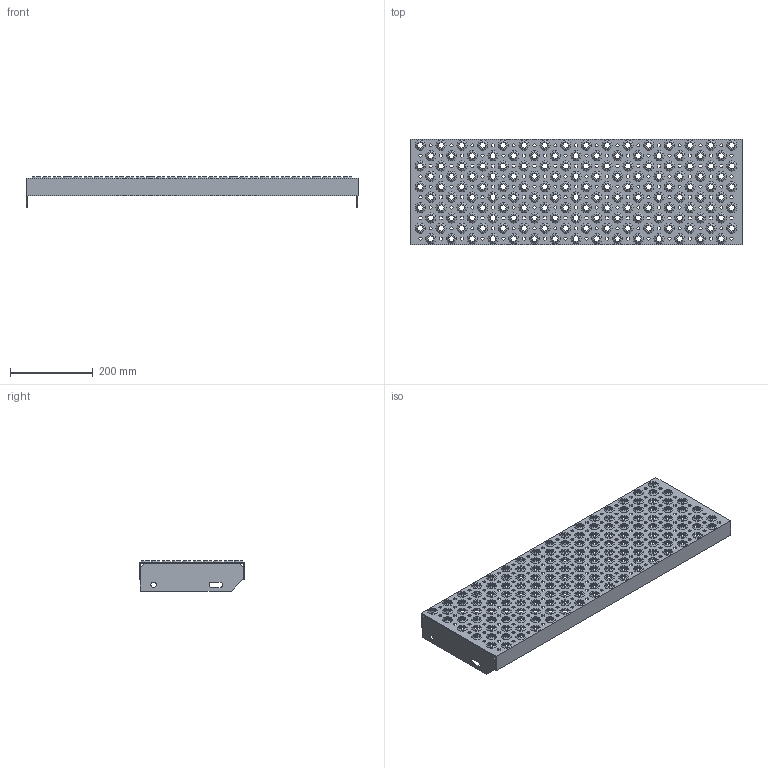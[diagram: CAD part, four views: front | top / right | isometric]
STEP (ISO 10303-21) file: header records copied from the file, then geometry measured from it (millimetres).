
FILE_DESCRIPTION(('Open CASCADE Model'),'2;1');
FILE_NAME('Open CASCADE Shape Model','2020-06-30T11:27:20',('Author'),( 'Open CASCADE'),'Open CASCADE STEP processor 7.2','Open CASCADE 7.2' ,'Unknown');
FILE_SCHEMA(('AUTOMOTIVE_DESIGN { 1 0 10303 214 1 1 1 1 }'));
Length unit declared in the file: millimetre
Products named in the file (6531): Open CASCADE STEP translator 7.2 1; Open CASCADE STEP translator 7.2 2; Open CASCADE STEP translator 7.2 3; Open CASCADE STEP translator 7.2 3.1; Open CASCADE STEP translator 7.2 3.2; Open CASCADE STEP translator 7.2 3.3; Open CASCADE STEP translator 7.2 3.4; Open CASCADE STEP translator 7.2 3.5; Open CASCADE STEP translator 7.2 3.6; Open CASCADE STEP translator 7.2 3.7; Open CASCADE STEP translator 7.2 3.8; Open CASCADE STEP translator 7.2 3.9; Open CASCADE STEP translator 7.2 3.10; Open CASCADE STEP translator 7.2 3.11; Open CASCADE STEP translator 7.2 3.12; Open CASCADE STEP translator 7.2 3.13; Open CASCADE STEP translator 7.2 3.14; Open CASCADE STEP translator 7.2 3.15; Open CASCADE STEP translator 7.2 3.16; Open CASCADE STEP translator 7.2 3.17; Open CASCADE STEP translator 7.2 3.18; Open CASCADE STEP translator 7.2 3.19; Open CASCADE STEP translator 7.2 3.20; Open CASCADE STEP translator 7.2 3.21; Open CASCADE STEP translator 7.2 3.22; Open CASCADE STEP translator 7.2 3.23; Open CASCADE STEP translator 7.2 3.24; Open CASCADE STEP translator 7.2 3.25; Open CASCADE STEP translator 7.2 3.26; Open CASCADE STEP translator 7.2 3.27; Open CASCADE STEP translator 7.2 3.28; Open CASCADE STEP translator 7.2 3.29; Open CASCADE STEP translator 7.2 3.30; Open CASCADE STEP translator 7.2 3.31; Open CASCADE STEP translator 7.2 3.32; Open CASCADE STEP translator 7.2 3.33; Open CASCADE STEP translator 7.2 3.34; Open CASCADE STEP translator 7.2 3.35; Open CASCADE STEP translator 7.2 3.36; Open CASCADE STEP translator 7.2 3.37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
Assembly tree (6528 placements, depth 2):
  Open CASCADE STEP translator 7.2 1
  Open CASCADE STEP translator 7.2 2
  Open CASCADE STEP translator 7.2 3
    Open CASCADE STEP translator 7.2 3.1
    Open CASCADE STEP translator 7.2 3.2
    Open CASCADE STEP translator 7.2 3.3
    Open CASCADE STEP translator 7.2 3.4
    Open CASCADE STEP translator 7.2 3.5
    Open CASCADE STEP translator 7.2 3.6
    Open CASCADE STEP translator 7.2 3.7
    Open CASCADE STEP translator 7.2 3.8
    Open CASCADE STEP translator 7.2 3.9
    Open CASCADE STEP translator 7.2 3.10
    Open CASCADE STEP translator 7.2 3.11
    Open CASCADE STEP translator 7.2 3.12
    Open CASCADE STEP translator 7.2 3.13
    Open CASCADE STEP translator 7.2 3.14
    Open CASCADE STEP translator 7.2 3.15
    Open CASCADE STEP translator 7.2 3.16
    Open CASCADE STEP translator 7.2 3.17
    Open CASCADE STEP translator 7.2 3.18
    Open CASCADE STEP translator 7.2 3.19
    Open CASCADE STEP translator 7.2 3.20
    Open CASCADE STEP translator 7.2 3.21
    Open CASCADE STEP translator 7.2 3.22
    Open CASCADE STEP translator 7.2 3.23
    Open CASCADE STEP translator 7.2 3.24
    Open CASCADE STEP translator 7.2 3.25
    Open CASCADE STEP translator 7.2 3.26
    Open CASCADE STEP translator 7.2 3.27
    Open CASCADE STEP translator 7.2 3.28
    Open CASCADE STEP translator 7.2 3.29
    Open CASCADE STEP translator 7.2 3.30
    Open CASCADE STEP translator 7.2 3.31
    Open CASCADE STEP translator 7.2 3.32
    Open CASCADE STEP translator 7.2 3.33
    Open CASCADE STEP translator 7.2 3.34
    Open CASCADE STEP translator 7.2 3.35
    Open CASCADE STEP translator 7.2 3.36
    Open CASCADE STEP translator 7.2 3.37
    Open CASCADE STEP translator 7.2 3.38
    Open CASCADE STEP translator 7.2 3.39
    Open CASCADE STEP translator 7.2 3.40
    Open CASCADE STEP translator 7.2 3.41
    Open CASCADE STEP translator 7.2 3.42
    Open CASCADE STEP translator 7.2 3.43
    Open CASCADE STEP translator 7.2 3.44
    Open CASCADE STEP translator 7.2 3.45
    Open CASCADE STEP translator 7.2 3.46
    Open CASCADE STEP translator 7.2 3.47
    Open CASCADE STEP translator 7.2 3.48
    Open CASCADE STEP translator 7.2 3.49
    Open CASCADE STEP translator 7.2 3.50
    Open CASCADE STEP translator 7.2 3.51
    Open CASCADE STEP translator 7.2 3.52
    Open CASCADE STEP translator 7.2 3.53
    Open CASCADE STEP translator 7.2 3.54
    Open CASCADE STEP translator 7.2 3.55
    Open CASCADE STEP translator 7.2 3.56
    Open CASCADE STEP translator 7.2 3.57
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Bounding box: 800 x 255 x 73 mm (x, y, z)
Volume: 93645.2 mm3; surface area: 700263.5 mm2
Topology: 2 solids, 6530 shells, 6556 faces, 37368 edges, 37344 vertices
Faces by surface type: plane 6550, cylinder 6
Full cylindrical faces by diameter (mm): 13 x2
Entity records: 745900 total; most frequent: CARTESIAN_POINT 125285, DIRECTION 100962, LINE 74760, VECTOR 74760, ORIENTED_EDGE 37440, PCURVE 37440, DEFINITIONAL_REPRESENTATION 37440, EDGE_CURVE 37368
